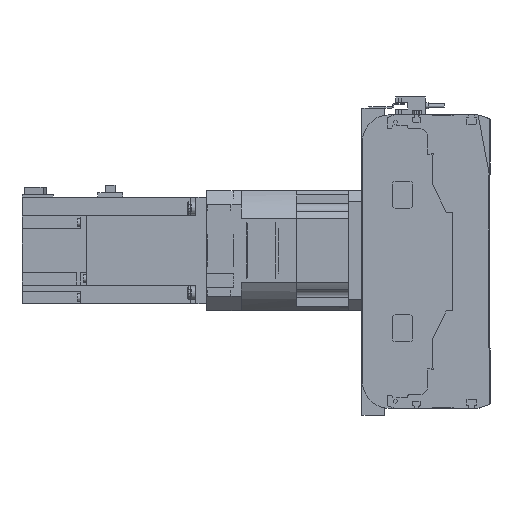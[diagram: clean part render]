
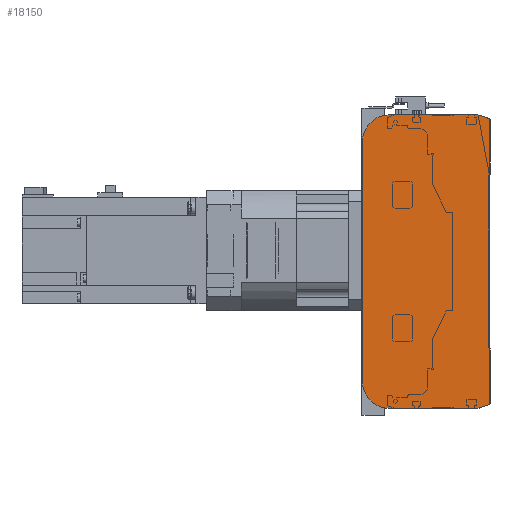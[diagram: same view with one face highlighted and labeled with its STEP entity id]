
A CAD part, left-side view. The second image highlights one B-rep face of the part: STEP entity #18150.
In plain terms, the highlighted planar face has unit normal (-1, 0, 0).
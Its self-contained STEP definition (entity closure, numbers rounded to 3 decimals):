
#1032=CIRCLE('',#19787,20.);
#1033=CIRCLE('',#19790,20.);
#4554=ORIENTED_EDGE('',*,*,#7880,.F.);
#4555=ORIENTED_EDGE('',*,*,#7922,.F.);
#4556=ORIENTED_EDGE('',*,*,#7920,.F.);
#4557=ORIENTED_EDGE('',*,*,#7918,.F.);
#4558=ORIENTED_EDGE('',*,*,#7907,.F.);
#4559=ORIENTED_EDGE('',*,*,#7898,.F.);
#4560=ORIENTED_EDGE('',*,*,#7894,.F.);
#4561=ORIENTED_EDGE('',*,*,#7891,.F.);
#7880=EDGE_CURVE('',#9887,#9888,#11515,.T.);
#7891=EDGE_CURVE('',#9888,#9895,#11526,.T.);
#7894=EDGE_CURVE('',#9895,#9897,#11529,.T.);
#7898=EDGE_CURVE('',#9897,#9898,#11533,.T.);
#7907=EDGE_CURVE('',#9898,#9904,#11542,.T.);
#7918=EDGE_CURVE('',#9904,#9911,#1032,.T.);
#7920=EDGE_CURVE('',#9911,#9912,#11554,.T.);
#7922=EDGE_CURVE('',#9912,#9887,#1033,.T.);
#9887=VERTEX_POINT('',#29937);
#9888=VERTEX_POINT('',#29939);
#9895=VERTEX_POINT('',#29958);
#9897=VERTEX_POINT('',#29964);
#9898=VERTEX_POINT('',#29970);
#9904=VERTEX_POINT('',#29986);
#9911=VERTEX_POINT('',#30005);
#9912=VERTEX_POINT('',#30009);
#11515=LINE('',#29938,#13090);
#11526=LINE('',#29957,#13101);
#11529=LINE('',#29963,#13104);
#11533=LINE('',#29969,#13108);
#11542=LINE('',#29985,#13117);
#11554=LINE('',#30008,#13129);
#13090=VECTOR('',#23990,1000.);
#13101=VECTOR('',#24003,1000.);
#13104=VECTOR('',#24008,1000.);
#13108=VECTOR('',#24014,1000.);
#13117=VECTOR('',#24025,1000.);
#13129=VECTOR('',#24043,1000.);
#14514=EDGE_LOOP('',(#4554,#4555,#4556,#4557,#4558,#4559,#4560,#4561));
#16170=FACE_BOUND('',#14514,.T.);
#17265=PLANE('',#19791);
#18150=ADVANCED_FACE('',(#16170),#17265,.F.);
#19787=AXIS2_PLACEMENT_3D('',#30004,#24038,#24039);
#19790=AXIS2_PLACEMENT_3D('',#30012,#24047,#24048);
#19791=AXIS2_PLACEMENT_3D('',#30013,#24049,#24050);
#23990=DIRECTION('',(0.,-1.,0.));
#24003=DIRECTION('',(0.,-0.945,-0.328));
#24008=DIRECTION('',(0.,0.,-1.));
#24014=DIRECTION('',(0.,0.945,-0.328));
#24025=DIRECTION('',(0.,1.,0.));
#24038=DIRECTION('',(1.,0.,0.));
#24039=DIRECTION('',(0.,0.,-1.));
#24043=DIRECTION('',(0.,0.,1.));
#24047=DIRECTION('',(1.,0.,0.));
#24048=DIRECTION('',(0.,0.,-1.));
#24049=DIRECTION('',(1.,0.,0.));
#24050=DIRECTION('',(0.,0.,-1.));
#29937=CARTESIAN_POINT('',(0.,75.5,110.));
#29938=CARTESIAN_POINT('',(0.,75.5,110.));
#29939=CARTESIAN_POINT('',(0.,9.,110.));
#29957=CARTESIAN_POINT('',(0.,9.,110.));
#29958=CARTESIAN_POINT('',(0.,0.5,107.05));
#29963=CARTESIAN_POINT('',(0.,0.5,107.05));
#29964=CARTESIAN_POINT('',(0.,0.5,-107.05));
#29969=CARTESIAN_POINT('',(0.,0.5,-107.05));
#29970=CARTESIAN_POINT('',(0.,9.,-110.));
#29985=CARTESIAN_POINT('',(0.,9.,-110.));
#29986=CARTESIAN_POINT('',(0.,75.5,-110.));
#30004=CARTESIAN_POINT('',(0.,75.5,-90.));
#30005=CARTESIAN_POINT('',(0.,95.5,-90.));
#30008=CARTESIAN_POINT('',(0.,95.5,-90.));
#30009=CARTESIAN_POINT('',(0.,95.5,90.));
#30012=CARTESIAN_POINT('',(0.,75.5,90.));
#30013=CARTESIAN_POINT('',(0.,75.5,-90.));
